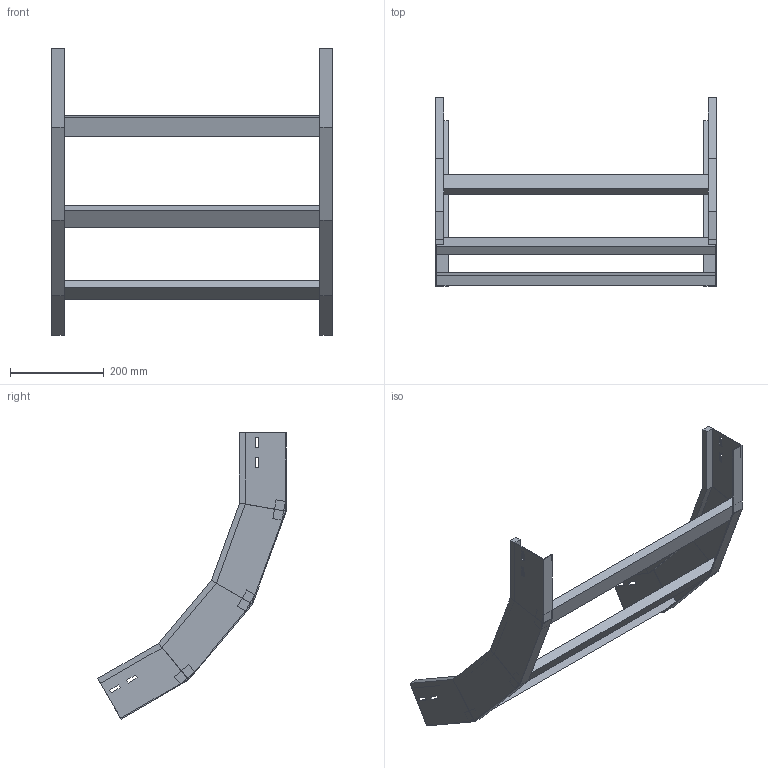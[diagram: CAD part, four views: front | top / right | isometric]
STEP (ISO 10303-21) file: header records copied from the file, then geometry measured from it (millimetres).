
FILE_DESCRIPTION (( 'STEP AP214' ), '1' );
FILE_NAME ('A2X40B5D600XX.step', '2025-03-20T10:12:16', ( '' ), ( '' ), 'SwSTEP 2.0', 'SolidWorks 2023', '' );
FILE_SCHEMA (( 'AUTOMOTIVE_DESIGN' ));
Length unit declared in the file: millimetre
Products named in the file (3): LONGH.SALITA_60°_H100_R500; A2X40B5D600XX; TRAVERSINO_600
Assembly tree (5 placements, depth 2):
  A2X40B5D600XX
    LONGH.SALITA_60°_H100_R500  x2
    TRAVERSINO_600  x3
Bounding box: 600 x 402.87 x 611.18 mm (x, y, z)
Volume: 2055550.8 mm3; surface area: 626391.1 mm2
Topology: 5 solids, 5 shells, 118 faces, 276 edges, 168 vertices
Faces by surface type: plane 118
Entity records: 1672 total; most frequent: CARTESIAN_POINT 276, ORIENTED_EDGE 264, DIRECTION 260, EDGE_CURVE 132, LINE 132, VECTOR 132, VERTEX_POINT 80, EDGE_LOOP 64
